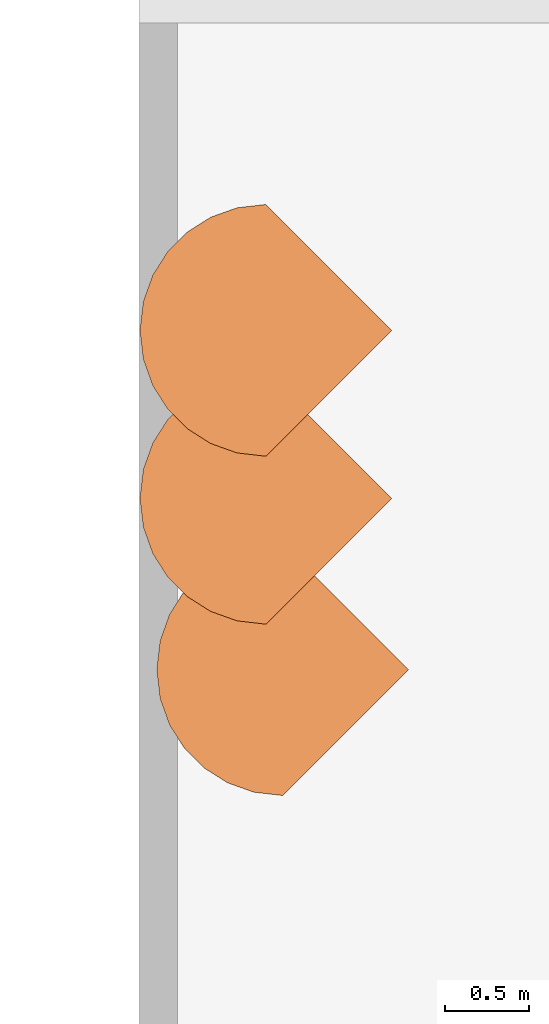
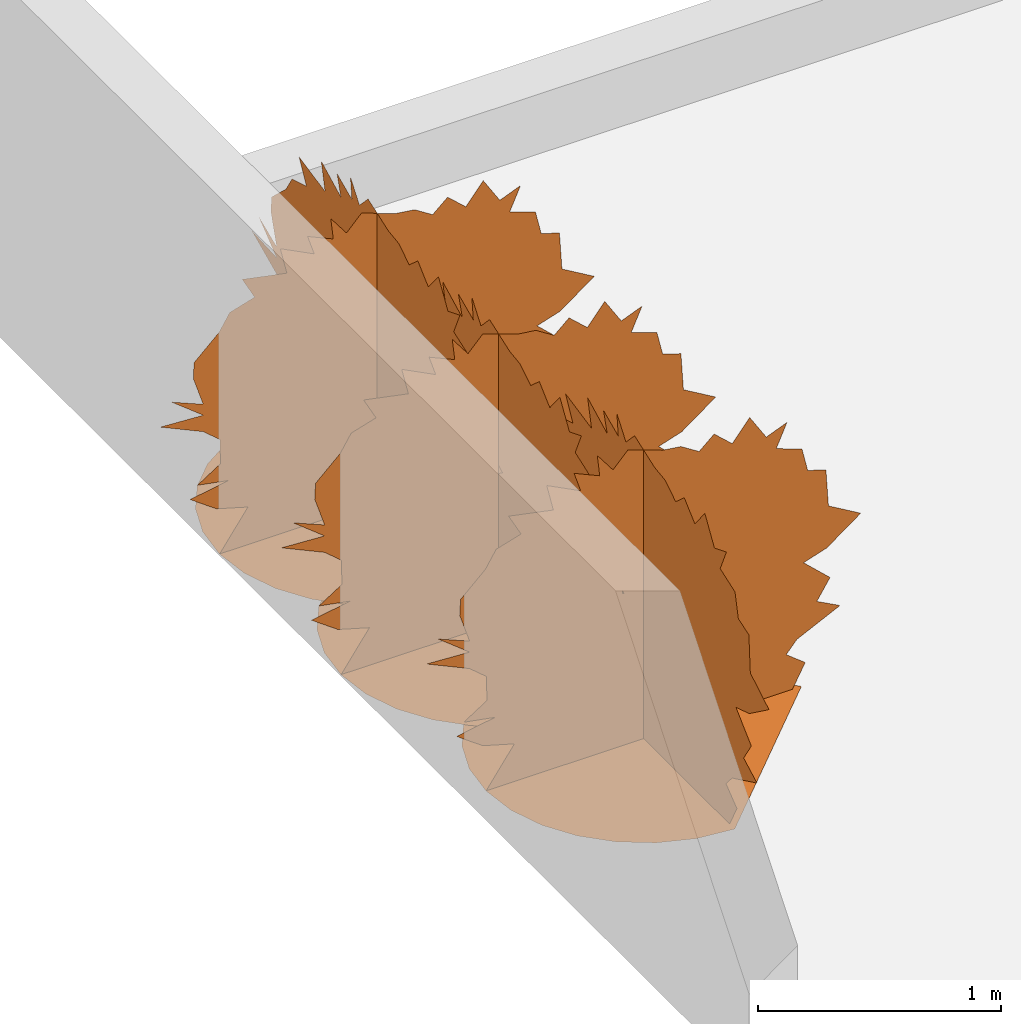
# One storey, part 20 of 20: 3 proxies.
"""IFC2X3 building model written with IfcOpenShell, lengths in metres."""

from ifc_helpers import new_model, entity, si_unit, converted_unit, derived_unit, direction, frame, origin, place, context, subcontext, project, spatial, face_set, surface_model, source, transform, mapped, material, type_object, type_shapes, element, save


model = new_model("IFC2X3")

# Units and contexts
model_context = context("Model", 3, precision=1e-05, world=origin(), true_north=direction((6.12303176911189e-17, 1.0)))
body_context = subcontext(model_context, "Body", "Model", "MODEL_VIEW")
ifc_project = project(units=[si_unit("LENGTHUNIT", "METRE"), si_unit("AREAUNIT", "SQUARE_METRE"), si_unit("VOLUMEUNIT", "CUBIC_METRE"), converted_unit("PLANEANGLEUNIT", "DEGREE", entity("IfcRatioMeasure", 0.0174532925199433), si_unit("PLANEANGLEUNIT", "RADIAN"), dimensions=[0, 0, 0, 0, 0, 0, 0]), si_unit("MASSUNIT", "GRAM", prefix="KILO"), derived_unit("MASSDENSITYUNIT", [(si_unit("MASSUNIT", "GRAM", prefix="KILO"), 1), (si_unit("LENGTHUNIT", "METRE"), -3)]), derived_unit("MOMENTOFINERTIAUNIT", [(si_unit("LENGTHUNIT", "METRE"), 4)]), si_unit("TIMEUNIT", "SECOND"), si_unit("FREQUENCYUNIT", "HERTZ"), si_unit("THERMODYNAMICTEMPERATUREUNIT", "DEGREE_CELSIUS"), derived_unit("THERMALTRANSMITTANCEUNIT", [(si_unit("MASSUNIT", "GRAM", prefix="KILO"), 1), (si_unit("THERMODYNAMICTEMPERATUREUNIT", "KELVIN"), -1), (si_unit("TIMEUNIT", "SECOND"), -3)]), derived_unit("VOLUMETRICFLOWRATEUNIT", [(si_unit("LENGTHUNIT", "METRE"), 3), (si_unit("TIMEUNIT", "SECOND"), -1)]), si_unit("ELECTRICCURRENTUNIT", "AMPERE"), si_unit("ELECTRICVOLTAGEUNIT", "VOLT"), si_unit("POWERUNIT", "WATT"), si_unit("FORCEUNIT", "NEWTON", prefix="KILO"), si_unit("ILLUMINANCEUNIT", "LUX"), si_unit("LUMINOUSFLUXUNIT", "LUMEN"), si_unit("LUMINOUSINTENSITYUNIT", "CANDELA"), derived_unit("USERDEFINED", [(si_unit("MASSUNIT", "GRAM", prefix="KILO"), -1), (si_unit("LENGTHUNIT", "METRE"), -2), (si_unit("TIMEUNIT", "SECOND"), 3), (si_unit("LUMINOUSFLUXUNIT", "LUMEN"), 1)]), derived_unit("LINEARVELOCITYUNIT", [(si_unit("LENGTHUNIT", "METRE"), 1), (si_unit("TIMEUNIT", "SECOND"), -1)]), si_unit("PRESSUREUNIT", "PASCAL"), derived_unit("USERDEFINED", [(si_unit("LENGTHUNIT", "METRE"), -2), (si_unit("MASSUNIT", "GRAM", prefix="KILO"), 1), (si_unit("TIMEUNIT", "SECOND"), -2)]), derived_unit("LINEARFORCEUNIT", [(si_unit("MASSUNIT", "GRAM", prefix="KILO"), 1), (si_unit("LENGTHUNIT", "METRE"), 1), (si_unit("TIMEUNIT", "SECOND"), -2), (si_unit("LENGTHUNIT", "METRE"), -1)]), derived_unit("PLANARFORCEUNIT", [(si_unit("MASSUNIT", "GRAM", prefix="KILO"), 1), (si_unit("LENGTHUNIT", "METRE"), 1), (si_unit("TIMEUNIT", "SECOND"), -2), (si_unit("LENGTHUNIT", "METRE"), -2)])], contexts=[model_context])

# Site, building, storey
site_placement = place(None, origin())
site = spatial("IfcSite", under=ifc_project, at=site_placement, Name="Surface", CompositionType="ELEMENT")
building_placement = place(site_placement, origin())
building = spatial("IfcBuilding", under=site, at=building_placement, CompositionType="ELEMENT")
storey_placement = place(building_placement, origin())
storey = spatial("IfcBuildingStorey", under=building, at=storey_placement, Name="Niveau rdc", CompositionType="ELEMENT", Elevation=-1.94916083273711e-14)

# Proxies
ifc_material = material(Name="<Unnamed>")
building_element_proxy_type = type_object("IfcBuildingElementProxyType", Name="RPC Arbuste:Laurier-rose - 1.62 mètres", PredefinedType="NOTDEFINED", material=ifc_material)
shared_shape = source(origin(), body_context, "Body", "SurfaceModel", [
    surface_model("IfcFaceBasedSurfaceModel", [(0.749760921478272, 6.5546016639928e-08, 3.34139053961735e-08), (-9.83191375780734e-08, 0.749760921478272, 3.34139053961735e-08), (-0.749760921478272, 0.0, 3.34139053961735e-08), (0.729939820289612, -0.171795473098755, 3.34139053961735e-08), (-0.729939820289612, -0.171795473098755, 3.34139053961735e-08), (0.673488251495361, -0.329561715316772, 3.34139053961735e-08), (-0.673488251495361, -0.329561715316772, 3.34139053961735e-08), (-0.584929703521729, -0.468780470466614, 3.34139053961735e-08), (0.584929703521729, -0.468780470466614, 3.34139053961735e-08), (0.468780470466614, -0.584929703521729, 3.34139053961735e-08), (-0.468780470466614, -0.584929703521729, 3.34139053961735e-08), (-0.329561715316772, -0.673488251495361, 3.34139053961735e-08), (-0.171795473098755, -0.729939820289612, 3.34139053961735e-08), (3.2773125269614e-08, -0.749760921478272, 3.34139053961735e-08), (0.171795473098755, -0.729939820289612, 3.34139053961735e-08), (0.329561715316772, -0.673488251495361, 3.34139053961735e-08), (-3.92170300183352e-06, -0.82693826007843, 0.724249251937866), (-3.9159375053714e-06, -0.976574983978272, 0.842383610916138), (-3.9200624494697e-06, -0.82693826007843, 0.779378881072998), (-3.92416410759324e-06, -0.82693826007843, 0.641557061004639), (-3.91828134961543e-06, -1.03170468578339, 0.736064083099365), (-3.91096872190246e-06, -0.208700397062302, 1.39367815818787), (-3.9076172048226e-06, -0.22051382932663, 1.50000001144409), (-3.91167173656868e-06, -0.145695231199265, 1.40155543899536), (-3.93454688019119e-06, -0.704864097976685, 0.354096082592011), (-3.93150002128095e-06, -0.854503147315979, 0.381660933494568), (-3.93103125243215e-06, -0.74424374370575, 0.45254061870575), (-3.92521862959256e-06, 0.582801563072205, 1.31098596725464), (-3.92550000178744e-06, 0.681246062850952, 1.35036321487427), (-3.92814850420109e-06, 0.630053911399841, 1.23616640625), (-3.93731236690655e-06, -0.763933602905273, 0.232023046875), (-3.93271865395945e-06, -0.88994298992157, 0.322593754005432), (-3.91089830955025e-06, -0.299271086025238, 1.35036321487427), (-3.9074999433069e-06, -0.330773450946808, 1.448807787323), (-3.91049995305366e-06, -0.429217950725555, 1.29917113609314), (-3.90602350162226e-06, -0.460720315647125, 1.43305787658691), (-3.91019529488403e-06, -0.582792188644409, 1.232228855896), (-3.90602350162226e-06, -0.641859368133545, 1.34248825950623), (-3.95589845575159e-06, 0.823007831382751, 0.401348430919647), (-3.95929682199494e-06, 0.933267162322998, 0.342281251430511), (-3.95917956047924e-06, 0.728500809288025, 0.243836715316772), (-3.9661406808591e-06, 0.707200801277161, 1.89953210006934e-05), (-3.94443759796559e-06, -0.748614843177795, 1.11516792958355e-07), (-3.9408279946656e-06, -0.614294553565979, 0.188707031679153), (-3.94298444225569e-06, 0.878137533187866, 0.862073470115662), (-3.94797651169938e-06, 1.03171173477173, 0.771503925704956), (-3.94910144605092e-06, 0.870262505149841, 0.653369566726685), (-3.9221016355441e-06, 0.421350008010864, 1.33461097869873), (-3.92029697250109e-06, 0.504044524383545, 1.43699528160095), (-3.91928902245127e-06, 0.263838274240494, 1.35036321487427), (-3.91846874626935e-06, 0.334717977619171, 1.41336794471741), (-3.96018751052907e-06, 0.677308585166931, 0.184769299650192), (-3.96365628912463e-06, 0.767878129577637, 0.113888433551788), (-3.9485156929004e-06, 0.760003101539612, 0.617929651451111), (-3.95390611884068e-06, 0.886012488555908, 0.499795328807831), (-3.93520304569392e-06, 0.779690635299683, 1.07471485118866), (-3.93731236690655e-06, 0.866322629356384, 1.04714996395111), (-3.91049995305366e-06, -0.0748146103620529, 1.47637267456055), (-3.9147188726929e-06, 0.0905737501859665, 1.41730549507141), (-3.93126549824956e-06, 0.75212814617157, 1.19284921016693), (-3.92732822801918e-06, -0.748181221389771, 0.574612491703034), (-3.91499996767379e-06, -0.874190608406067, 0.925078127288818), (-3.91272653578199e-06, -0.870253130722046, 1.00383516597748), (-3.91120324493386e-06, -0.752118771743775, 1.11409449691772), (-3.91635942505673e-06, 0.177205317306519, 1.40549298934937), (-3.90949228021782e-06, -0.700926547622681, 1.19678908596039), (-0.826945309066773, 3.96639848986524e-06, 0.724249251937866), (-0.976582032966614, 3.95936723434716e-06, 0.842383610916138), (-0.826945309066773, 3.96311710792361e-06, 0.779378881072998), (-0.826945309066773, 3.9713204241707e-06, 0.641554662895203), (-1.03171173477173, 3.96569519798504e-06, 0.736064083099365), (-0.208708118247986, 3.92650767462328e-06, 1.39367815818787), (-0.220521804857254, 3.92015614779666e-06, 1.50000001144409), (-0.145703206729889, 3.92601561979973e-06, 1.40155543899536), (-0.70487347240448, 3.98845308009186e-06, 0.354096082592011), (-0.854510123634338, 3.98681252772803e-06, 0.381660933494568), (-0.744250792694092, 3.98259388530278e-06, 0.45254061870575), (0.582792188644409, 3.93142960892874e-06, 1.31098364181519), (0.681239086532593, 3.9290860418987e-06, 1.35036321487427), (0.630046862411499, 3.93588277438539e-06, 1.23616640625), (-0.763940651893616, 3.99574214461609e-06, 0.232023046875), (-0.889949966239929, 3.99032815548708e-06, 0.322593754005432), (-0.299278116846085, 3.9290860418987e-06, 1.35036321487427), (-0.330780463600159, 3.9232030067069e-06, 1.448807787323), (-0.429224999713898, 3.93213290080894e-06, 1.29917113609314), (-0.460727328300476, 3.92414054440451e-06, 1.43305787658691), (-0.582801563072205, 3.93611729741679e-06, 1.232228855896), (-0.64186874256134, 3.9295548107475e-06, 1.34248825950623), (0.823000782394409, 3.98564074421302e-06, 0.401348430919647), (0.933257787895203, 3.98915637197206e-06, 0.342281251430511), (0.728491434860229, 3.99503912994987e-06, 0.243836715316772), (0.707193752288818, 4.00957040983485e-06, 1.89271884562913e-05), (-0.748624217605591, 4.00957040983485e-06, 0.0), (-0.614303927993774, 3.99832023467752e-06, 0.188707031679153), (0.878128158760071, 3.9581718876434e-06, 0.862073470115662), (1.03170468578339, 3.96358587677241e-06, 0.771503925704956), (0.870253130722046, 3.9706171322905e-06, 0.653369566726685), (0.421342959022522, 3.93002330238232e-06, 1.33461097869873), (0.504037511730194, 3.9239062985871e-06, 1.43699528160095), (0.263828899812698, 3.9290860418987e-06, 1.35036321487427), (0.334710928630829, 3.92531260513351e-06, 1.41336794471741), (0.677301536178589, 3.99855475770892e-06, 0.184769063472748), (0.767871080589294, 4.00277340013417e-06, 0.113888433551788), (0.759993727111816, 3.97272645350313e-06, 0.617929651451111), (0.886005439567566, 3.97978127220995e-06, 0.499795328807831), (0.77968358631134, 3.94551568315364e-06, 1.07471485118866), (0.866315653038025, 3.94715623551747e-06, 1.04714996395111), (-0.0748225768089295, 3.92156245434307e-06, 1.47637267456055), (0.09056578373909, 3.92507808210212e-06, 1.41730549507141), (0.752118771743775, 3.93846086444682e-06, 1.19284921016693), (-0.748188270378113, 3.9753281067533e-06, 0.574612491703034), (-0.874199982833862, 3.95442173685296e-06, 0.925078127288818), (-0.870260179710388, 3.9497343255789e-06, 1.00383516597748), (-0.75212814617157, 3.94317183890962e-06, 1.11409449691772), (0.177197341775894, 3.92578137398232e-06, 1.40549298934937), (-0.700935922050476, 3.93822661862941e-06, 1.19678908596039)], [face_set([[[0, 1, 2]], [[3, 0, 2]], [[3, 2, 4]], [[5, 3, 4]], [[5, 4, 6]], [[5, 6, 7]], [[8, 5, 7]], [[9, 8, 7]], [[9, 7, 10]], [[9, 10, 11]], [[9, 11, 12]], [[9, 12, 13]], [[9, 13, 14]], [[9, 14, 15]], [[16, 17, 18]], [[19, 20, 16]], [[21, 22, 23]], [[24, 25, 26]], [[27, 28, 29]], [[30, 31, 24]], [[32, 33, 21]], [[34, 35, 32]], [[36, 37, 34]], [[38, 39, 40]], [[41, 42, 43]], [[44, 45, 46]], [[47, 48, 27]], [[43, 30, 24]], [[49, 50, 47]], [[51, 52, 41]], [[53, 54, 38]], [[44, 46, 53]], [[55, 56, 44]], [[23, 57, 58]], [[29, 59, 55]], [[55, 44, 53]], [[60, 19, 16]], [[47, 27, 29]], [[53, 38, 40]], [[29, 55, 53]], [[47, 29, 53]], [[49, 47, 53]], [[41, 43, 24]], [[61, 62, 63]], [[18, 61, 63]], [[41, 24, 26]], [[41, 26, 60]], [[51, 41, 60]], [[40, 51, 60]], [[53, 40, 60]], [[49, 53, 60]], [[64, 49, 60]], [[58, 64, 60]], [[23, 58, 60]], [[21, 23, 60]], [[32, 21, 60]], [[34, 32, 60]], [[36, 34, 60]], [[36, 60, 16]], [[36, 16, 18]], [[36, 18, 63]], [[65, 36, 63]], [[66, 67, 68]], [[69, 70, 66]], [[71, 72, 73]], [[74, 75, 76]], [[77, 78, 79]], [[80, 81, 74]], [[82, 83, 71]], [[84, 85, 82]], [[86, 87, 84]], [[88, 89, 90]], [[91, 92, 93]], [[94, 95, 96]], [[97, 98, 77]], [[93, 80, 74]], [[99, 100, 97]], [[101, 102, 91]], [[103, 104, 88]], [[94, 96, 103]], [[105, 106, 94]], [[73, 107, 108]], [[79, 109, 105]], [[105, 94, 103]], [[110, 69, 66]], [[97, 77, 79]], [[103, 88, 90]], [[79, 105, 103]], [[97, 79, 103]], [[99, 97, 103]], [[91, 93, 74]], [[111, 112, 113]], [[68, 111, 113]], [[91, 74, 76]], [[91, 76, 110]], [[101, 91, 110]], [[90, 101, 110]], [[103, 90, 110]], [[99, 103, 110]], [[114, 99, 110]], [[108, 114, 110]], [[73, 108, 110]], [[71, 73, 110]], [[82, 71, 110]], [[84, 82, 110]], [[86, 84, 110]], [[86, 110, 66]], [[86, 66, 68]], [[86, 68, 113]], [[115, 86, 113]]])]),
])
type_shapes(building_element_proxy_type, [shared_shape])
for number, where, z_axis, x_axis in (
    (1, (-6.83560392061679, 9.02473483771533, 0.0), (0.0, 0.0, 1.0), (0.0, -1.0, 0.0)),
    (2, (-6.8356039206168, 8.02473483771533, 0.0), (0.0, 0.0, 1.0), (0.0, -1.0, 0.0)),
    (3, (-6.7356039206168, 7.00425810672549, 0.0), (0.0, 0.0, 1.0), (0.0, -1.0, 0.0)),
):
    element("IfcBuildingElementProxy", number, at=place(storey_placement, frame(where, z_axis=z_axis, x_axis=x_axis)), inside=storey, type_object=building_element_proxy_type, material=ifc_material, Name="RPC Arbuste:Laurier-rose - 1.62 mètres", ObjectType="RPC Arbuste:Laurier-rose - 1.62 mètres", context=body_context, shape_type="MappedRepresentation", body=[
        mapped(shared_shape, transform((0.0, 0.0, 0.0), scale=1.0)),
    ])

save(model, "model.ifc")
